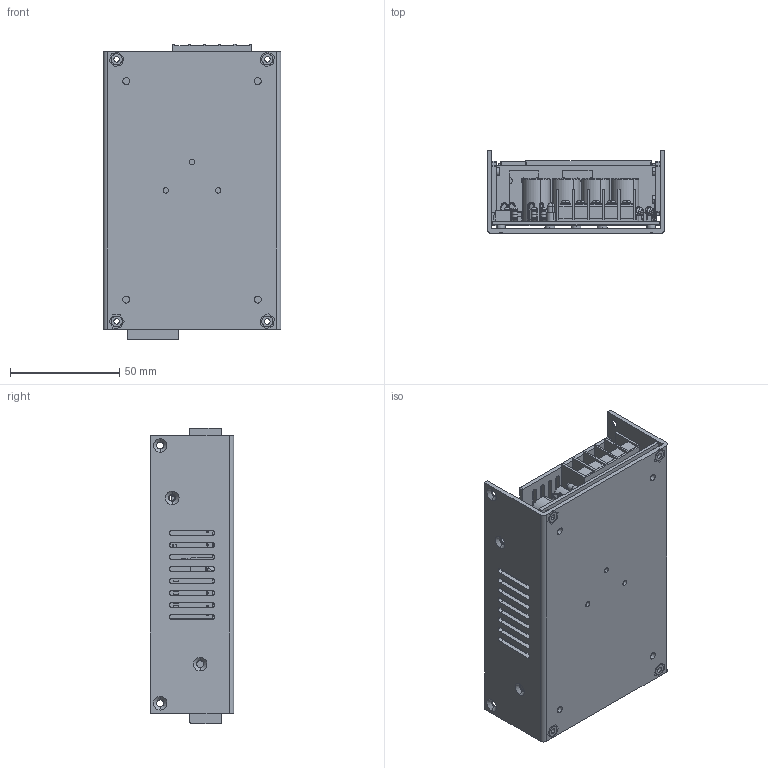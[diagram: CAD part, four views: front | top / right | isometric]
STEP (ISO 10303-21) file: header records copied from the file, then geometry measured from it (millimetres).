
FILE_DESCRIPTION (( 'STEP AP203' ), '1' );
FILE_NAME ('TXH120-U.STEP', '2012-10-17T12:02:16', ( '微软用户' ), ( '微软中国' ), 'SwSTEP 2.0', 'SolidWorks 2011', '' );
FILE_SCHEMA (( 'CONFIG_CONTROL_DESIGN' ));
Length unit declared in the file: millimetre
Products named in the file (1): TXH120-U
Bounding box: 81.4 x 38.1 x 135.25 mm (x, y, z)
Volume: 146229.3 mm3; surface area: 114386.4 mm2
Topology: 63 solids, 63 shells, 3080 faces, 7859 edges, 5027 vertices
Faces by surface type: plane 1674, cylinder 706, bspline 419, torus 221, sphere 42, cone 18
Entity records: 142207 total; most frequent: CARTESIAN_POINT 69122, ORIENTED_EDGE 15598, DIRECTION 14133, EDGE_CURVE 7799, VERTEX_POINT 5025, LINE 4807, VECTOR 4807, AXIS2_PLACEMENT_3D 4663
